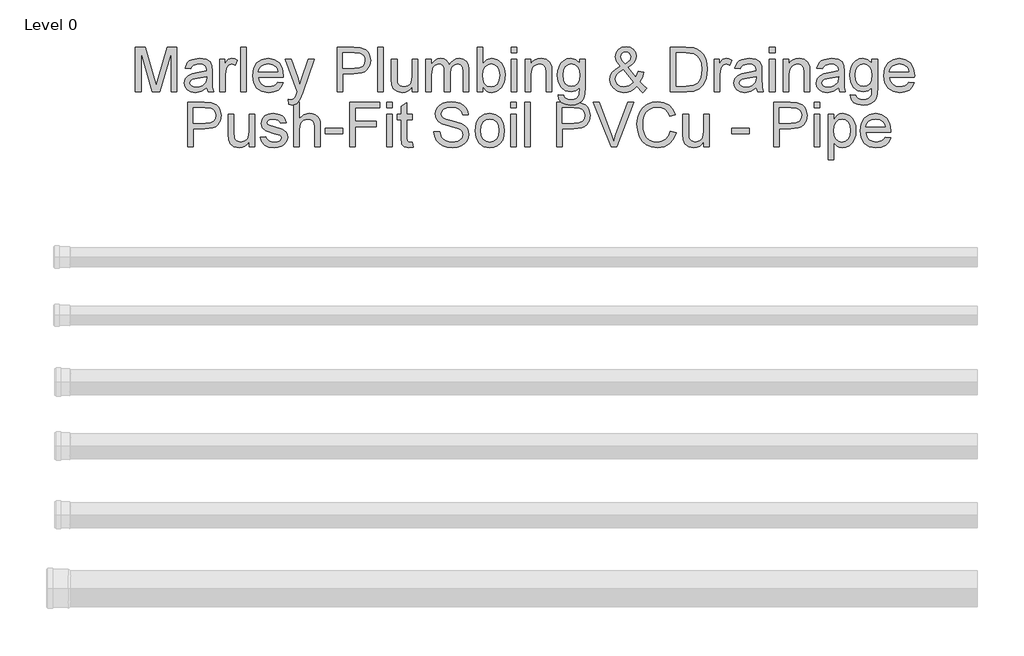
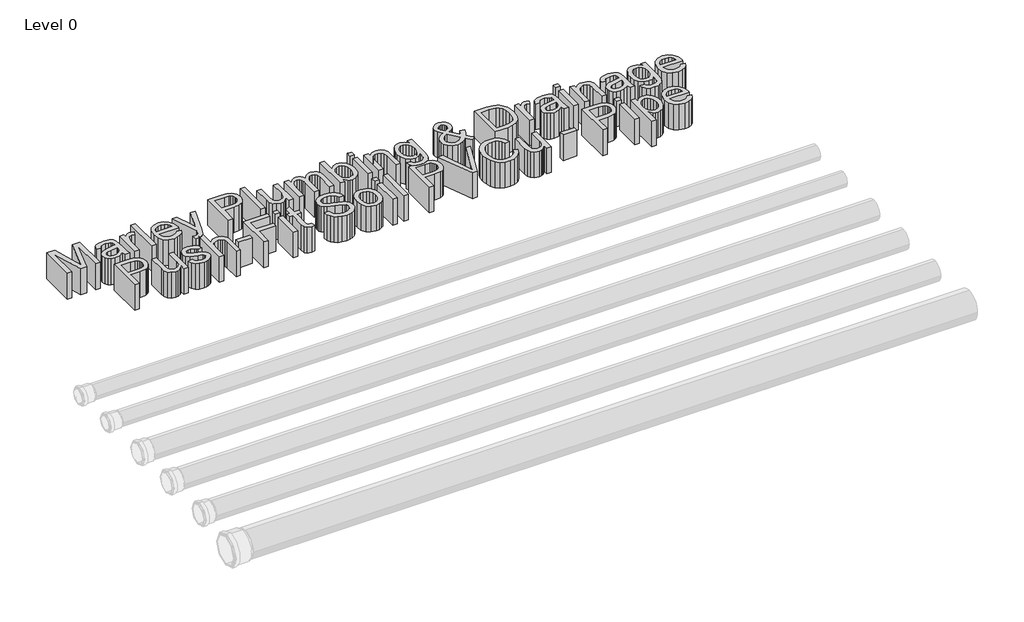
# One storey, part 2 of 2: 1 proxy.
"""IFC4 building model written with IfcOpenShell, lengths in millimetres."""

import ifcopenshell
import ifcopenshell.guid

model = None  # the IFC model being written
_history = None  # IfcOwnerHistory: only IFC2X3 demands one
_inside = {}  # id of a spatial element -> (the spatial element, [elements in it])
_under = {}  # id of a project, library or spatial element -> (it, [spatial elements below it])
_declared = {}  # id of a project -> (the project, [libraries it declares])
_typed = {}  # id of a type object -> (the type object, [elements of that type])
_made_of = {}  # id of a material, layer set ... -> (it, [elements and type objects made of it])


def new_model(schema):
    """Start an empty IFC model of exactly this schema.

    Asked for "IFC4X3", IfcOpenShell would pick the latest addendum, in which some entities
    have other attributes; the version numbers below select the first issue.
    IFC2X3 requires an IfcOwnerHistory on every rooted entity: one is made here for all.
    """
    global model, _history
    if schema == "IFC4X3":
        model = ifcopenshell.file(schema_version=(4, 3, 0, 0))
    else:
        model = ifcopenshell.file(schema=schema)
    _inside.clear()
    _under.clear()
    _declared.clear()
    _typed.clear()
    _made_of.clear()
    _history = None
    if model.schema == "IFC2X3":
        org = make("IfcOrganization", Name="unknown")
        user = make(
            "IfcPersonAndOrganization",
            ThePerson=make("IfcPerson", FamilyName="unknown"),
            TheOrganization=org,
        )
        app = make(
            "IfcApplication",
            ApplicationDeveloper=org,
            Version="unknown",
            ApplicationFullName="unknown",
            ApplicationIdentifier="unknown",
        )
        _history = make(
            "IfcOwnerHistory",
            OwningUser=user,
            OwningApplication=app,
            ChangeAction="ADDED",
            CreationDate=0,
        )
    return model


def make(cls, **values):
    """One entity of the class cls with the attributes given. An attribute that is None is left unset."""
    return model.create_entity(
        cls, **{name: value for name, value in values.items() if value is not None}
    )


def rooted(cls, **values):
    """An entity with a GlobalId (a new one), such as an element, a storey or a relation."""
    return make(cls, GlobalId=ifcopenshell.guid.new(), OwnerHistory=_history, **values)


def si_unit(unit_type, name, prefix=None):
    """IfcSIUnit, for example si_unit("LENGTHUNIT", "METRE", prefix="MILLI")."""
    return make("IfcSIUnit", UnitType=unit_type, Prefix=prefix, Name=name)


def assignment(units):
    """IfcUnitAssignment: the units of a project."""
    return None if units is None else make("IfcUnitAssignment", Units=units)


def point(xyz):
    """IfcCartesianPoint."""
    return None if xyz is None else make("IfcCartesianPoint", Coordinates=xyz)


def direction(xyz):
    """IfcDirection."""
    return None if xyz is None else make("IfcDirection", DirectionRatios=xyz)


def frame(location, z_axis=None, x_axis=None):
    """IfcAxis2Placement3D, a coordinate frame: its origin and axes. An axis left out is left unset."""
    return make(
        "IfcAxis2Placement3D",
        Location=point(location),
        Axis=direction(z_axis),
        RefDirection=direction(x_axis),
    )


def origin():
    """The frame at (0, 0, 0) with its axes left unset."""
    return frame((0.0, 0.0, 0.0))


def origin_with_axes():
    """The frame at (0, 0, 0) with the z axis (0, 0, 1) and the x axis (1, 0, 0) written out."""
    return frame((0.0, 0.0, 0.0), z_axis=(0.0, 0.0, 1.0), x_axis=(1.0, 0.0, 0.0))


def place(relative_to, where):
    """IfcLocalPlacement: puts the frame where relative to a parent placement (None: the world)."""
    return make(
        "IfcLocalPlacement", PlacementRelTo=relative_to, RelativePlacement=where
    )


def context(
    kind, dimensions, precision=None, world=None, true_north=None, identifier=None
):
    """IfcGeometricRepresentationContext, for example the 3D "Model" context."""
    return make(
        "IfcGeometricRepresentationContext",
        ContextIdentifier=identifier,
        ContextType=kind,
        CoordinateSpaceDimension=dimensions,
        Precision=precision,
        WorldCoordinateSystem=world,
        TrueNorth=true_north,
    )


def project(units=None, contexts=None):
    """IfcProject with its units and contexts."""
    return rooted(
        "IfcProject",
        Name="project",
        RepresentationContexts=contexts,
        UnitsInContext=assignment(units),
    )


def spatial(cls, under=None, at=None, **own):
    """A site, building, storey or space (cls), placed at a placement, below another one or the project."""
    s = rooted(cls, ObjectPlacement=at, **own)
    if under is not None:
        _under.setdefault(under.id(), (under, []))[1].append(s)
    return s


def polyline(points):
    """IfcPolyline through the points."""
    return make("IfcPolyline", Points=[point(p) for p in points])


def outline(outer, holes=None, kind="AREA"):
    """IfcArbitraryClosedProfileDef: a profile drawn as a closed curve; with holes, ...WithVoids."""
    if holes is None:
        return make("IfcArbitraryClosedProfileDef", ProfileType=kind, OuterCurve=outer)
    return make(
        "IfcArbitraryProfileDefWithVoids",
        ProfileType=kind,
        OuterCurve=outer,
        InnerCurves=holes,
    )


def extrude(swept, where, along, depth):
    """IfcExtrudedAreaSolid: the profile swept, set in the frame where, extruded along a direction by depth."""
    return make(
        "IfcExtrudedAreaSolid",
        SweptArea=swept,
        Position=where,
        ExtrudedDirection=direction(along),
        Depth=depth,
    )


def shape(context_of_items, identifier, shape_type, items):
    """IfcShapeRepresentation: the items that make up one representation, for example the "Body"."""
    return make(
        "IfcShapeRepresentation",
        ContextOfItems=context_of_items,
        RepresentationIdentifier=identifier,
        RepresentationType=shape_type,
        Items=items,
    )


def made_of(thing, what):
    """Note that an element or type object is made of a material, layer set ...; save() writes the relation."""
    if what is not None:
        _made_of.setdefault(what.id(), (what, []))[1].append(thing)
    return thing


def element(
    cls,
    number,
    at=None,
    inside=None,
    cuts=None,
    type_object=None,
    material=None,
    context=None,
    identifier="Body",
    shape_type=None,
    held_by="IfcProductDefinitionShape",
    body=None,
    shapes=None,
    **own,
):
    """One element of the class cls, such as IfcWall. Its Tag is "e" and its number.

    at: its placement. inside: the storey or other place that contains it. cuts: it is an
    opening in that element (IfcRelVoidsElement). A single representation is given by context,
    identifier, shape_type and body (its items); several are given by shapes. held_by: the class
    of the entity that holds the representations. save() writes the other relations.
    """
    e = rooted(cls, Tag="e%d" % number, ObjectPlacement=at, **own)
    if body is not None:
        shapes = [shape(context, identifier, shape_type, body)]
    if shapes is not None:
        e.Representation = make(held_by, Representations=shapes)
    if inside is not None:
        _inside.setdefault(inside.id(), (inside, []))[1].append(e)
    if cuts is not None:
        rooted(
            "IfcRelVoidsElement", RelatingBuildingElement=cuts, RelatedOpeningElement=e
        )
    if type_object is not None:
        _typed.setdefault(type_object.id(), (type_object, []))[1].append(e)
    return made_of(e, material)


def aggregate(whole, parts):
    """IfcRelAggregates: a whole, such as a stair, and the parts it consists of."""
    return rooted("IfcRelAggregates", RelatingObject=whole, RelatedObjects=parts)


def save(model, path):
    """Write the relations noted so far, then the file.

    IfcRelAggregates (storeys below a building ...), IfcRelContainedInSpatialStructure (elements
    in a storey), IfcRelDefinesByType, IfcRelAssociatesMaterial and IfcRelDeclares: one each for
    every whole, place, type object, material and project.
    """
    for whole, parts in _under.values():
        aggregate(whole, parts)
    for where, things in _inside.values():
        rooted(
            "IfcRelContainedInSpatialStructure",
            RelatedElements=things,
            RelatingStructure=where,
        )
    for kind, things in _typed.values():
        rooted("IfcRelDefinesByType", RelatedObjects=things, RelatingType=kind)
    for what, things in _made_of.values():
        rooted("IfcRelAssociatesMaterial", RelatedObjects=things, RelatingMaterial=what)
    for by, libraries in _declared.values():
        rooted("IfcRelDeclares", RelatingContext=by, RelatedDefinitions=libraries)
    model.write(path)


model = new_model("IFC4")

# Units and contexts
model_context = context("Model", 3, world=origin())
ifc_project = project(units=[si_unit("LENGTHUNIT", "METRE", prefix="MILLI")], contexts=[model_context])

# Site, building, storey
site = spatial("IfcSite", under=ifc_project)
building = spatial("IfcBuilding", under=site)
storey = spatial("IfcBuildingStorey", under=building, Name="Level 0", Elevation=0.0)

# Proxy
placement = place(None, origin())
element("IfcBuildingElementProxy", 1, Name="200mm Arial", ObjectType="200mm Arial", at=placement, inside=storey, context=model_context, shape_type="SweptSolid", body=[
    extrude(outline(polyline([(-27116.6978358, 9681.0651791), (-27116.6978358, 9877.988256), (-27074.3420666, 9877.988256), (-27034.0536051, 9739.1901791), (-27025.9286051, 9710.1997945), (-27017.1305281, 9741.5940252), (-26977.5151435, 9877.988256), (-26935.1593743, 9877.988256), (-26935.1593743, 9681.0651791), (-26959.7747589, 9681.0651791), (-26959.7747589, 9853.3728714), (-27009.2459128, 9681.0651791), (-27042.6112974, 9681.0651791), (-27092.0824512, 9853.3728714), (-27092.0824512, 9681.0651791), (-27116.6978358, 9681.0651791)])), origin_with_axes(), (0.0, 0.0, 1.0), 150.0),
    extrude(outline(polyline([(-26802.851682, 9699.5267175), (-26826.7218743, 9682.8440252), (-26853.0920666, 9677.988256), (-26873.6629801, 9680.9089291), (-26888.8372589, 9689.6709483), (-26898.1942301, 9702.9762368), (-26901.3132205, 9719.5267175), (-26896.601682, 9738.9978714), (-26884.2218743, 9753.1324868), (-26866.9862974, 9761.2094099), (-26845.6882205, 9764.9113329), (-26802.9959128, 9773.3728714), (-26802.851682, 9778.8536406), (-26804.5463935, 9789.8392175), (-26809.6305281, 9797.0267175), (-26821.0007205, 9802.363256), (-26836.8420666, 9804.1421022), (-26861.7459128, 9799.4065252), (-26868.7290858, 9792.8380156), (-26873.6209128, 9782.6036406), (-26898.2362974, 9785.6805637), (-26887.5872589, 9809.7190252), (-26878.5127397, 9817.8079675), (-26866.1449512, 9823.8055637), (-26833.6689897, 9828.7574868), (-26803.8372589, 9824.3824868), (-26786.9862974, 9813.3969099), (-26779.4382205, 9796.6901791), (-26778.2362974, 9775.1517175), (-26778.2362974, 9744.5267175), (-26776.9862974, 9701.7622945), (-26772.0824512, 9681.0651791), (-26796.6978358, 9681.0651791), (-26802.851682, 9699.5267175)]), holes=[polyline([(-26802.851682, 9748.7574868), (-26842.5632205, 9741.2094099), (-26863.7411051, 9737.2190252), (-26873.3324512, 9730.7286406), (-26876.6978358, 9721.2574868), (-26874.8649031, 9713.9377752), (-26869.3661051, 9707.9401791), (-26860.3216339, 9703.9377752), (-26847.851682, 9702.6036406), (-26834.6305281, 9704.0759964), (-26822.9478358, 9708.4930637), (-26806.8901435, 9722.7478714), (-26802.9959128, 9741.7863329), (-26802.851682, 9748.7574868)])]), origin_with_axes(), (0.0, 0.0, 1.0), 150.0),
    extrude(outline(polyline([(-26744.3901435, 9681.0651791), (-26744.3901435, 9825.6805637), (-26722.851682, 9825.6805637), (-26722.851682, 9804.2863329), (-26707.5632205, 9823.9978714), (-26692.1786051, 9828.7574868), (-26679.9189897, 9826.8584483), (-26667.4670666, 9821.1613329), (-26675.6882205, 9799.0940252), (-26692.9959128, 9804.1421022), (-26706.914182, 9799.2863329), (-26715.7843743, 9785.8247945), (-26719.7747589, 9757.0747945), (-26719.7747589, 9681.0651791), (-26744.3901435, 9681.0651791)])), origin_with_axes(), (0.0, 0.0, 1.0), 150.0),
    extrude(outline(polyline([(-26652.0824512, 9681.0651791), (-26652.0824512, 9877.988256), (-26627.4670666, 9877.988256), (-26627.4670666, 9681.0651791), (-26652.0824512, 9681.0651791)])), origin_with_axes(), (0.0, 0.0, 1.0), 150.0),
    extrude(outline(polyline([(-26489.2939897, 9724.1421022), (-26465.1593743, 9721.0651791), (-26473.8552878, 9702.8800829), (-26487.7314897, 9689.2863329), (-26506.4754801, 9680.8127752), (-26529.7747589, 9677.988256), (-26558.6569705, 9682.8620541), (-26580.8805281, 9697.4834483), (-26595.0512012, 9720.9029195), (-26599.7747589, 9752.1709483), (-26595.0031243, 9784.4906599), (-26580.6882205, 9808.6613329), (-26558.7651435, 9823.7334483), (-26531.1689897, 9828.7574868), (-26504.4322108, 9823.7454675), (-26483.0680281, 9808.7094099), (-26469.0596147, 9784.5868137), (-26464.3901435, 9752.3151791), (-26464.5343743, 9745.6805637), (-26575.1593743, 9745.6805637), (-26570.898557, 9727.2550829), (-26561.0007205, 9713.7094099), (-26546.7158647, 9705.3800829), (-26529.2939897, 9702.6036406), (-26505.1593743, 9707.7478714), (-26496.1930281, 9714.4185445), (-26489.2939897, 9724.1421022)]), holes=[polyline([(-26575.1593743, 9770.2959483), (-26489.0055281, 9770.2959483), (-26492.3348551, 9783.300756), (-26498.8612974, 9792.6036406), (-26513.2122589, 9801.2574868), (-26531.2651435, 9804.1421022), (-26547.8576916, 9801.8404195), (-26561.5776435, 9794.9353714), (-26571.1149031, 9784.1721502), (-26575.1593743, 9770.2959483)])]), origin_with_axes(), (0.0, 0.0, 1.0), 150.0),
    extrude(outline(polyline([(-26439.7747589, 9625.6805637), (-26442.851682, 9649.3824868), (-26430.351682, 9647.2190252), (-26418.6689897, 9649.9353714), (-26411.5055281, 9657.5074868), (-26404.7747589, 9675.6324868), (-26402.851682, 9681.5940252), (-26455.1593743, 9825.6805637), (-26429.1978358, 9825.6805637), (-26401.4574512, 9745.3921022), (-26391.7939897, 9713.2767175), (-26382.1305281, 9741.6421022), (-26353.6209128, 9825.6805637), (-26327.851682, 9825.6805637), (-26378.1882205, 9677.6036406), (-26391.2651435, 9645.488256), (-26405.5439897, 9628.1324868), (-26424.726682, 9622.6036406), (-26439.7747589, 9625.6805637)])), origin_with_axes(), (0.0, 0.0, 1.0), 150.0),
    extrude(outline(polyline([(-26227.4670666, 9681.0651791), (-26227.4670666, 9877.988256), (-26154.4862974, 9877.988256), (-26125.0632205, 9876.113256), (-26101.1449512, 9866.9065252), (-26092.4490378, 9858.7454675), (-26085.6401435, 9847.8680637), (-26079.7747589, 9821.0171022), (-26083.7350955, 9797.8079675), (-26095.6161051, 9778.4690252), (-26105.1308286, 9770.8548425), (-26117.8336531, 9765.4161406), (-26152.8036051, 9761.0651791), (-26202.851682, 9761.0651791), (-26202.851682, 9681.0651791), (-26227.4670666, 9681.0651791)]), holes=[polyline([(-26202.851682, 9785.6805637), (-26151.3612974, 9785.6805637), (-26129.5343743, 9787.9401791), (-26115.1112974, 9794.7190252), (-26107.070432, 9805.5964291), (-26104.3901435, 9820.1517175), (-26105.9706724, 9831.2094099), (-26110.7122589, 9840.5363329), (-26118.0259608, 9847.5555637), (-26127.3228358, 9851.6901791), (-26151.9382205, 9853.3728714), (-26202.851682, 9853.3728714), (-26202.851682, 9785.6805637)])]), origin_with_axes(), (0.0, 0.0, 1.0), 150.0),
    extrude(outline(polyline([(-26049.0055281, 9681.0651791), (-26049.0055281, 9877.988256), (-26024.3901435, 9877.988256), (-26024.3901435, 9681.0651791), (-26049.0055281, 9681.0651791)])), origin_with_axes(), (0.0, 0.0, 1.0), 150.0),
    extrude(outline(polyline([(-25895.1593743, 9681.0651791), (-25895.1593743, 9705.9209483), (-25904.0656243, 9693.7003954), (-25914.4382205, 9684.9714291), (-25926.2771628, 9679.7340493), (-25939.5824512, 9677.988256), (-25962.7314897, 9682.8921022), (-25978.6930281, 9695.1997945), (-25986.0247589, 9713.3247945), (-25987.4670666, 9736.2094099), (-25987.4670666, 9825.6805637), (-25962.851682, 9825.6805637), (-25962.851682, 9747.7959483), (-25961.3612974, 9722.6997945), (-25957.773557, 9714.3284002), (-25951.6257205, 9707.9642175), (-25933.2843743, 9702.6036406), (-25912.7314897, 9708.0844099), (-25904.5403839, 9714.5567656), (-25899.1497589, 9723.0122945), (-25895.1593743, 9750.4401791), (-25895.1593743, 9825.6805637), (-25870.5439897, 9825.6805637), (-25870.5439897, 9681.0651791), (-25895.1593743, 9681.0651791)])), origin_with_axes(), (0.0, 0.0, 1.0), 150.0),
    extrude(outline(polyline([(-25836.6978358, 9681.0651791), (-25836.6978358, 9825.6805637), (-25812.0824512, 9825.6805637), (-25812.0824512, 9801.8824868), (-25795.1593743, 9821.3776791), (-25783.8492781, 9826.9125349), (-25771.0728358, 9828.7574868), (-25757.382932, 9826.8764772), (-25746.4093743, 9821.2334483), (-25738.2122589, 9812.2009964), (-25732.851682, 9800.1517175), (-25723.8793262, 9812.6667416), (-25713.6449512, 9821.6060445), (-25702.148557, 9826.9696262), (-25689.3901435, 9828.7574868), (-25670.8865378, 9825.7827272), (-25657.2026435, 9816.8584483), (-25648.7471147, 9801.7442656), (-25645.9286051, 9780.1997945), (-25645.9286051, 9681.0651791), (-25670.5439897, 9681.0651791), (-25670.5439897, 9769.6228714), (-25672.8276435, 9790.175756), (-25681.0968743, 9800.2959483), (-25695.1593743, 9804.1421022), (-25708.4947108, 9801.6781599), (-25719.3661051, 9794.2863329), (-25726.5956724, 9781.4618137), (-25729.0055281, 9762.6997945), (-25729.0055281, 9681.0651791), (-25753.6209128, 9681.0651791), (-25753.6209128, 9772.363256), (-25755.0451916, 9786.2815252), (-25759.3180281, 9796.2094099), (-25766.836057, 9802.1589291), (-25777.9959128, 9804.1421022), (-25796.2170666, 9798.8536406), (-25803.4286051, 9792.3392175), (-25808.3324512, 9783.3728714), (-25812.0824512, 9753.9978714), (-25812.0824512, 9681.0651791), (-25836.6978358, 9681.0651791)])), origin_with_axes(), (0.0, 0.0, 1.0), 150.0),
    extrude(outline(polyline([(-25584.3901435, 9681.0651791), (-25609.0055281, 9681.0651791), (-25609.0055281, 9877.988256), (-25584.3901435, 9877.988256), (-25584.3901435, 9804.9594099), (-25567.1545666, 9822.8079675), (-25545.7362974, 9828.7574868), (-25521.0728358, 9823.3969099), (-25501.9382205, 9808.3247945), (-25490.1834128, 9784.8872945), (-25485.9286051, 9755.5363329), (-25490.3336531, 9722.675756), (-25503.5487974, 9698.2286406), (-25522.9418262, 9683.0483522), (-25545.8805281, 9677.988256), (-25557.4820906, 9679.6198666), (-25567.7675474, 9684.5146983), (-25584.3901435, 9704.0940252), (-25584.3901435, 9681.0651791)]), holes=[polyline([(-25584.3901435, 9754.3824868), (-25582.7074512, 9733.8536406), (-25577.6593743, 9719.9594099), (-25564.7627397, 9706.9425829), (-25547.9959128, 9702.6036406), (-25533.789182, 9705.800756), (-25521.6497589, 9715.3921022), (-25513.320432, 9731.3175829), (-25510.5439897, 9753.5171022), (-25513.2062493, 9776.0411406), (-25521.1930281, 9791.7863329), (-25532.9538455, 9801.0531599), (-25546.9382205, 9804.1421022), (-25561.1449512, 9800.9449868), (-25573.2843743, 9791.3536406), (-25581.6137012, 9775.7166214), (-25584.3901435, 9754.3824868)])]), origin_with_axes(), (0.0, 0.0, 1.0), 150.0),
    extrude(outline(polyline([(-25458.2362974, 9681.0651791), (-25458.2362974, 9825.6805637), (-25433.6209128, 9825.6805637), (-25433.6209128, 9681.0651791), (-25458.2362974, 9681.0651791)])), origin_with_axes(), (0.0, 0.0, 1.0), 150.0),
    extrude(outline(polyline([(-25458.2362974, 9853.3728714), (-25458.2362974, 9877.988256), (-25433.6209128, 9877.988256), (-25433.6209128, 9853.3728714), (-25458.2362974, 9853.3728714)])), origin_with_axes(), (0.0, 0.0, 1.0), 150.0),
    extrude(outline(polyline([(-25396.6978358, 9681.0651791), (-25396.6978358, 9825.6805637), (-25372.0824512, 9825.6805637), (-25372.0824512, 9805.488256), (-25363.5307685, 9815.6685445), (-25353.2603358, 9822.9401791), (-25341.2711531, 9827.3031599), (-25327.5632205, 9828.7574868), (-25304.3180281, 9824.0699868), (-25288.4526435, 9811.7622945), (-25281.0728358, 9793.6613329), (-25279.7747589, 9769.863256), (-25279.7747589, 9681.0651791), (-25304.3901435, 9681.0651791), (-25304.3901435, 9766.5459483), (-25307.226682, 9788.3247945), (-25317.2507205, 9799.8392175), (-25334.1497589, 9804.1421022), (-25348.5668262, 9801.7262368), (-25360.8564897, 9794.4786406), (-25369.2759608, 9780.4762368), (-25372.0824512, 9757.7959483), (-25372.0824512, 9681.0651791), (-25396.6978358, 9681.0651791)])), origin_with_axes(), (0.0, 0.0, 1.0), 150.0),
    extrude(outline(polyline([(-25252.0824512, 9668.7574868), (-25227.4670666, 9665.6805637), (-25224.7507205, 9657.988256), (-25219.4862974, 9652.6997945), (-25209.1377397, 9648.5892175), (-25195.5920666, 9647.2190252), (-25181.1449512, 9648.769506), (-25170.3997589, 9653.4209483), (-25162.9478358, 9660.8728714), (-25158.3805281, 9670.8247945), (-25156.6978358, 9699.5267175), (-25174.0295666, 9685.6805637), (-25195.1593743, 9681.0651791), (-25220.5379801, 9686.4377752), (-25239.4622589, 9702.5555637), (-25251.2350955, 9726.1853714), (-25255.1593743, 9754.0940252), (-25253.398557, 9773.9678233), (-25248.1161051, 9792.2430637), (-25239.4983166, 9807.7298425), (-25227.7314897, 9819.238256), (-25213.2182685, 9826.3776791), (-25196.3612974, 9828.7574868), (-25174.4021628, 9823.3728714), (-25156.6978358, 9807.2190252), (-25156.6978358, 9825.6805637), (-25132.0824512, 9825.6805637), (-25132.0824512, 9700.8247945), (-25133.7651435, 9671.9966695), (-25138.8132205, 9653.0122945), (-25147.5091339, 9640.4221502), (-25160.1353358, 9630.7767175), (-25176.4153839, 9624.6469099), (-25196.0728358, 9622.6036406), (-25218.9754801, 9625.4822464), (-25237.0103358, 9634.1180637), (-25248.5788455, 9648.535131), (-25252.0824512, 9668.7574868)]), holes=[polyline([(-25230.5439897, 9755.7767175), (-25227.9177878, 9733.1985925), (-25220.039182, 9717.675756), (-25208.1942301, 9708.6793618), (-25193.6689897, 9705.6805637), (-25179.2519224, 9708.6613329), (-25167.3468743, 9717.6036406), (-25159.3600955, 9732.9281599), (-25156.6978358, 9755.0555637), (-25159.4382205, 9776.3957079), (-25167.6593743, 9791.7622945), (-25179.7387012, 9801.0471502), (-25194.0536051, 9804.1421022), (-25208.1100955, 9801.0952272), (-25219.8949512, 9791.9546022), (-25227.8817301, 9776.816381), (-25230.5439897, 9755.7767175)])]), origin_with_axes(), (0.0, 0.0, 1.0), 150.0),
    extrude(outline(polyline([(-24905.3036051, 9705.3921022), (-24917.8156243, 9693.4029195), (-24931.4093743, 9684.8392175), (-24946.1088935, 9679.7009964), (-24961.9382205, 9677.988256), (-24989.101682, 9683.0603714), (-25010.0151435, 9698.2767175), (-25020.7963935, 9715.7887368), (-25024.3901435, 9735.2478714), (-25021.4995185, 9752.4954675), (-25012.8276435, 9767.988256), (-24998.4105762, 9781.7142175), (-24978.2843743, 9793.6613329), (-24995.4718743, 9818.5651791), (-24999.7747589, 9837.0267175), (-24996.3853358, 9853.6493137), (-24986.2170666, 9867.9401791), (-24970.9165858, 9877.7839291), (-24952.1305281, 9881.0651791), (-24934.257932, 9877.9281599), (-24919.9670666, 9868.5171022), (-24910.5920666, 9854.707006), (-24907.4670666, 9838.3728714), (-24909.7807685, 9824.6589291), (-24916.7218743, 9811.9786406), (-24928.2903839, 9800.332006), (-24944.4862974, 9789.7190252), (-24908.8612974, 9745.3440252), (-24898.2362974, 9772.6036406), (-24873.6209128, 9767.2671022), (-24881.1930281, 9744.4666214), (-24891.0247589, 9726.738256), (-24877.0343743, 9710.4161406), (-24861.3132205, 9696.9305637), (-24879.7747589, 9677.988256), (-24905.3036051, 9705.3921022)]), holes=[polyline([(-24956.9382205, 9805.2478714), (-24936.6978358, 9820.5122945), (-24932.0824512, 9835.0074868), (-24933.6028839, 9843.6072464), (-24938.164182, 9850.4642175), (-24945.0091339, 9854.9534002), (-24953.3805281, 9856.4497945), (-24961.9322108, 9854.9654195), (-24968.9334128, 9850.5122945), (-24973.6028839, 9843.9197464), (-24975.1593743, 9836.0171022), (-24973.0439897, 9827.0026791), (-24966.6497589, 9816.9786406), (-24956.9382205, 9805.2478714)]), polyline([(-24921.7939897, 9723.1324868), (-24965.7362974, 9777.988256), (-24982.5211531, 9767.2791214), (-24992.7795666, 9757.363256), (-24998.0259608, 9747.8921022), (-24999.7747589, 9738.5171022), (-24997.382932, 9726.9065252), (-24990.2074512, 9714.863256), (-24978.6449512, 9705.6685445), (-24963.0920666, 9702.6036406), (-24940.4718743, 9708.3247945), (-24921.7939897, 9723.1324868)])]), origin_with_axes(), (0.0, 0.0, 1.0), 150.0),
    extrude(outline(polyline([(-24756.6978358, 9681.0651791), (-24756.6978358, 9877.988256), (-24688.7651435, 9877.988256), (-24653.6209128, 9875.1517175), (-24637.9237974, 9869.6829675), (-24624.6786051, 9861.0651791), (-24611.0608166, 9846.0651791), (-24601.3612974, 9827.4113329), (-24595.5560089, 9805.4642175), (-24593.6209128, 9780.5844099), (-24598.8612974, 9740.8488329), (-24612.3228358, 9712.1709483), (-24630.3036051, 9694.3103714), (-24653.8372589, 9684.4305637), (-24685.4959128, 9681.0651791), (-24756.6978358, 9681.0651791)]), holes=[polyline([(-24732.0824512, 9705.6805637), (-24688.5247589, 9705.6805637), (-24656.8420666, 9709.238256), (-24638.5728358, 9719.2863329), (-24630.0211531, 9729.941381), (-24623.5968743, 9743.7334483), (-24618.2362974, 9780.9690252), (-24620.8624993, 9807.7959483), (-24628.7411051, 9827.6036406), (-24640.3817301, 9841.2094099), (-24654.2939897, 9849.4305637), (-24689.1978358, 9853.3728714), (-24732.0824512, 9853.3728714), (-24732.0824512, 9705.6805637)])]), origin_with_axes(), (0.0, 0.0, 1.0), 150.0),
    extrude(outline(polyline([(-24562.851682, 9681.0651791), (-24562.851682, 9825.6805637), (-24541.3132205, 9825.6805637), (-24541.3132205, 9804.2863329), (-24526.0247589, 9823.9978714), (-24510.6401435, 9828.7574868), (-24498.3805281, 9826.8584483), (-24485.9286051, 9821.1613329), (-24494.1497589, 9799.0940252), (-24511.4574512, 9804.1421022), (-24525.3757205, 9799.2863329), (-24534.2459128, 9785.8247945), (-24538.2362974, 9757.0747945), (-24538.2362974, 9681.0651791), (-24562.851682, 9681.0651791)])), origin_with_axes(), (0.0, 0.0, 1.0), 150.0),
    extrude(outline(polyline([(-24378.2362974, 9699.5267175), (-24402.1064897, 9682.8440252), (-24428.476682, 9677.988256), (-24449.0475955, 9680.9089291), (-24464.2218743, 9689.6709483), (-24473.5788455, 9702.9762368), (-24476.6978358, 9719.5267175), (-24471.9862974, 9738.9978714), (-24459.6064897, 9753.1324868), (-24442.3709128, 9761.2094099), (-24421.0728358, 9764.9113329), (-24378.3805281, 9773.3728714), (-24378.2362974, 9778.8536406), (-24379.9310089, 9789.8392175), (-24385.0151435, 9797.0267175), (-24396.3853358, 9802.363256), (-24412.226682, 9804.1421022), (-24437.1305281, 9799.4065252), (-24444.1137012, 9792.8380156), (-24449.0055281, 9782.6036406), (-24473.6209128, 9785.6805637), (-24462.9718743, 9809.7190252), (-24453.8973551, 9817.8079675), (-24441.5295666, 9823.8055637), (-24409.0536051, 9828.7574868), (-24379.2218743, 9824.3824868), (-24362.3709128, 9813.3969099), (-24354.8228358, 9796.6901791), (-24353.6209128, 9775.1517175), (-24353.6209128, 9744.5267175), (-24352.3709128, 9701.7622945), (-24347.4670666, 9681.0651791), (-24372.0824512, 9681.0651791), (-24378.2362974, 9699.5267175)]), holes=[polyline([(-24378.2362974, 9748.7574868), (-24417.9478358, 9741.2094099), (-24439.1257205, 9737.2190252), (-24448.7170666, 9730.7286406), (-24452.0824512, 9721.2574868), (-24450.2495185, 9713.9377752), (-24444.7507205, 9707.9401791), (-24435.7062493, 9703.9377752), (-24423.2362974, 9702.6036406), (-24410.0151435, 9704.0759964), (-24398.3324512, 9708.4930637), (-24382.2747589, 9722.7478714), (-24378.3805281, 9741.7863329), (-24378.2362974, 9748.7574868)])]), origin_with_axes(), (0.0, 0.0, 1.0), 150.0),
    extrude(outline(polyline([(-24319.7747589, 9681.0651791), (-24319.7747589, 9825.6805637), (-24295.1593743, 9825.6805637), (-24295.1593743, 9681.0651791), (-24319.7747589, 9681.0651791)])), origin_with_axes(), (0.0, 0.0, 1.0), 150.0),
    extrude(outline(polyline([(-24319.7747589, 9853.3728714), (-24319.7747589, 9877.988256), (-24295.1593743, 9877.988256), (-24295.1593743, 9853.3728714), (-24319.7747589, 9853.3728714)])), origin_with_axes(), (0.0, 0.0, 1.0), 150.0),
    extrude(outline(polyline([(-24258.2362974, 9681.0651791), (-24258.2362974, 9825.6805637), (-24233.6209128, 9825.6805637), (-24233.6209128, 9805.488256), (-24225.0692301, 9815.6685445), (-24214.7987974, 9822.9401791), (-24202.8096147, 9827.3031599), (-24189.101682, 9828.7574868), (-24165.8564897, 9824.0699868), (-24149.9911051, 9811.7622945), (-24142.6112974, 9793.6613329), (-24141.3132205, 9769.863256), (-24141.3132205, 9681.0651791), (-24165.9286051, 9681.0651791), (-24165.9286051, 9766.5459483), (-24168.7651435, 9788.3247945), (-24178.789182, 9799.8392175), (-24195.6882205, 9804.1421022), (-24210.1052878, 9801.7262368), (-24222.3949512, 9794.4786406), (-24230.8144224, 9780.4762368), (-24233.6209128, 9757.7959483), (-24233.6209128, 9681.0651791), (-24258.2362974, 9681.0651791)])), origin_with_axes(), (0.0, 0.0, 1.0), 150.0),
    extrude(outline(polyline([(-24015.1593743, 9699.5267175), (-24039.0295666, 9682.8440252), (-24065.3997589, 9677.988256), (-24085.9706724, 9680.9089291), (-24101.1449512, 9689.6709483), (-24110.5019224, 9702.9762368), (-24113.6209128, 9719.5267175), (-24108.9093743, 9738.9978714), (-24096.5295666, 9753.1324868), (-24079.2939897, 9761.2094099), (-24057.9959128, 9764.9113329), (-24015.3036051, 9773.3728714), (-24015.1593743, 9778.8536406), (-24016.8540858, 9789.8392175), (-24021.9382205, 9797.0267175), (-24033.3084128, 9802.363256), (-24049.1497589, 9804.1421022), (-24074.0536051, 9799.4065252), (-24081.0367781, 9792.8380156), (-24085.9286051, 9782.6036406), (-24110.5439897, 9785.6805637), (-24099.8949512, 9809.7190252), (-24090.820432, 9817.8079675), (-24078.4526435, 9823.8055637), (-24045.976682, 9828.7574868), (-24016.1449512, 9824.3824868), (-23999.2939897, 9813.3969099), (-23991.7459128, 9796.6901791), (-23990.5439897, 9775.1517175), (-23990.5439897, 9744.5267175), (-23989.2939897, 9701.7622945), (-23984.3901435, 9681.0651791), (-24009.0055281, 9681.0651791), (-24015.1593743, 9699.5267175)]), holes=[polyline([(-24015.1593743, 9748.7574868), (-24054.8709128, 9741.2094099), (-24076.0487974, 9737.2190252), (-24085.6401435, 9730.7286406), (-24089.0055281, 9721.2574868), (-24087.1725955, 9713.9377752), (-24081.6737974, 9707.9401791), (-24072.6293262, 9703.9377752), (-24060.1593743, 9702.6036406), (-24046.9382205, 9704.0759964), (-24035.2555281, 9708.4930637), (-24019.1978358, 9722.7478714), (-24015.3036051, 9741.7863329), (-24015.1593743, 9748.7574868)])]), origin_with_axes(), (0.0, 0.0, 1.0), 150.0),
    extrude(outline(polyline([(-23962.851682, 9668.7574868), (-23938.2362974, 9665.6805637), (-23935.5199512, 9657.988256), (-23930.2555281, 9652.6997945), (-23919.9069705, 9648.5892175), (-23906.3612974, 9647.2190252), (-23891.914182, 9648.769506), (-23881.1689897, 9653.4209483), (-23873.7170666, 9660.8728714), (-23869.1497589, 9670.8247945), (-23867.4670666, 9699.5267175), (-23884.7987974, 9685.6805637), (-23905.9286051, 9681.0651791), (-23931.3072108, 9686.4377752), (-23950.2314897, 9702.5555637), (-23962.0043262, 9726.1853714), (-23965.9286051, 9754.0940252), (-23964.1677878, 9773.9678233), (-23958.8853358, 9792.2430637), (-23950.2675474, 9807.7298425), (-23938.5007205, 9819.238256), (-23923.9874993, 9826.3776791), (-23907.1305281, 9828.7574868), (-23885.1713935, 9823.3728714), (-23867.4670666, 9807.2190252), (-23867.4670666, 9825.6805637), (-23842.851682, 9825.6805637), (-23842.851682, 9700.8247945), (-23844.5343743, 9671.9966695), (-23849.5824512, 9653.0122945), (-23858.2783647, 9640.4221502), (-23870.9045666, 9630.7767175), (-23887.1846147, 9624.6469099), (-23906.8420666, 9622.6036406), (-23929.7447108, 9625.4822464), (-23947.7795666, 9634.1180637), (-23959.3480762, 9648.535131), (-23962.851682, 9668.7574868)]), holes=[polyline([(-23941.3132205, 9755.7767175), (-23938.6870185, 9733.1985925), (-23930.8084128, 9717.675756), (-23918.9634608, 9708.6793618), (-23904.4382205, 9705.6805637), (-23890.0211531, 9708.6613329), (-23878.1161051, 9717.6036406), (-23870.1293262, 9732.9281599), (-23867.4670666, 9755.0555637), (-23870.2074512, 9776.3957079), (-23878.4286051, 9791.7622945), (-23890.507932, 9801.0471502), (-23904.8228358, 9804.1421022), (-23918.8793262, 9801.0952272), (-23930.664182, 9791.9546022), (-23938.6509608, 9776.816381), (-23941.3132205, 9755.7767175)])]), origin_with_axes(), (0.0, 0.0, 1.0), 150.0),
    extrude(outline(polyline([(-23704.6786051, 9724.1421022), (-23680.5439897, 9721.0651791), (-23689.2399031, 9702.8800829), (-23703.1161051, 9689.2863329), (-23721.8600955, 9680.8127752), (-23745.1593743, 9677.988256), (-23774.0415858, 9682.8620541), (-23796.2651435, 9697.4834483), (-23810.4358166, 9720.9029195), (-23815.1593743, 9752.1709483), (-23810.3877397, 9784.4906599), (-23796.0728358, 9808.6613329), (-23774.1497589, 9823.7334483), (-23746.5536051, 9828.7574868), (-23719.8168262, 9823.7454675), (-23698.4526435, 9808.7094099), (-23684.4442301, 9784.5868137), (-23679.7747589, 9752.3151791), (-23679.9189897, 9745.6805637), (-23790.5439897, 9745.6805637), (-23786.2831724, 9727.2550829), (-23776.3853358, 9713.7094099), (-23762.1004801, 9705.3800829), (-23744.6786051, 9702.6036406), (-23720.5439897, 9707.7478714), (-23711.5776435, 9714.4185445), (-23704.6786051, 9724.1421022)]), holes=[polyline([(-23790.5439897, 9770.2959483), (-23704.3901435, 9770.2959483), (-23707.7194705, 9783.300756), (-23714.2459128, 9792.6036406), (-23728.5968743, 9801.2574868), (-23746.6497589, 9804.1421022), (-23763.242307, 9801.8404195), (-23776.9622589, 9794.9353714), (-23786.4995185, 9784.1721502), (-23790.5439897, 9770.2959483)])]), origin_with_axes(), (0.0, 0.0, 1.0), 150.0),
    extrude(outline(polyline([(-26885.9286051, 9437.988256), (-26885.9286051, 9634.9113329), (-26812.9478358, 9634.9113329), (-26783.5247589, 9633.0363329), (-26759.6064897, 9623.8296022), (-26750.9105762, 9615.6685445), (-26744.101682, 9604.7911406), (-26738.2362974, 9577.9401791), (-26742.1966339, 9554.7310445), (-26754.0776435, 9535.3921022), (-26763.5923671, 9527.7779195), (-26776.2951916, 9522.3392175), (-26811.2651435, 9517.988256), (-26861.3132205, 9517.988256), (-26861.3132205, 9437.988256), (-26885.9286051, 9437.988256)]), holes=[polyline([(-26861.3132205, 9542.6036406), (-26809.8228358, 9542.6036406), (-26787.9959128, 9544.863256), (-26773.5728358, 9551.6421022), (-26765.5319705, 9562.519506), (-26762.851682, 9577.0747945), (-26764.4322108, 9588.1324868), (-26769.1737974, 9597.4594099), (-26776.4874993, 9604.4786406), (-26785.7843743, 9608.613256), (-26810.3997589, 9610.2959483), (-26861.3132205, 9610.2959483), (-26861.3132205, 9542.6036406)])]), origin_with_axes(), (0.0, 0.0, 1.0), 150.0),
    extrude(outline(polyline([(-26615.1593743, 9437.988256), (-26615.1593743, 9462.8440252), (-26624.0656243, 9450.6234724), (-26634.4382205, 9441.894506), (-26646.2771628, 9436.6571262), (-26659.5824512, 9434.9113329), (-26682.7314897, 9439.8151791), (-26698.6930281, 9452.1228714), (-26706.0247589, 9470.2478714), (-26707.4670666, 9493.1324868), (-26707.4670666, 9582.6036406), (-26682.851682, 9582.6036406), (-26682.851682, 9504.7190252), (-26681.3612974, 9479.6228714), (-26677.773557, 9471.2514772), (-26671.6257205, 9464.8872945), (-26653.2843743, 9459.5267175), (-26632.7314897, 9465.0074868), (-26624.5403839, 9471.4798425), (-26619.1497589, 9479.9353714), (-26615.1593743, 9507.363256), (-26615.1593743, 9582.6036406), (-26590.5439897, 9582.6036406), (-26590.5439897, 9437.988256), (-26615.1593743, 9437.988256)])), origin_with_axes(), (0.0, 0.0, 1.0), 150.0),
    extrude(outline(polyline([(-26565.9286051, 9481.0651791), (-26541.3132205, 9484.1421022), (-26537.4310089, 9473.613256), (-26529.9189897, 9465.8728714), (-26518.7290858, 9461.113256), (-26503.8132205, 9459.5267175), (-26489.0776435, 9460.9810445), (-26478.7170666, 9465.3440252), (-26472.5872589, 9471.6661406), (-26470.5439897, 9478.9978714), (-26472.5992781, 9485.2719099), (-26478.7651435, 9490.0555637), (-26504.101682, 9497.0747945), (-26541.1689897, 9509.1180637), (-26557.3468743, 9523.1805637), (-26562.851682, 9543.0363329), (-26558.4286051, 9561.3776791), (-26546.3612974, 9575.3921022), (-26530.7122589, 9582.675756), (-26509.5343743, 9585.6805637), (-26479.5824512, 9580.8488329), (-26468.3805281, 9575.1637368), (-26460.5439897, 9567.7719099), (-26452.0824512, 9545.6805637), (-26476.6978358, 9542.6036406), (-26479.804807, 9550.3500349), (-26485.9526435, 9556.1853714), (-26507.6112974, 9561.0651791), (-26521.7459128, 9559.8993137), (-26531.1689897, 9556.4017175), (-26536.4694705, 9551.3536406), (-26538.2362974, 9545.5363329), (-26535.3036051, 9538.3728714), (-26526.1209128, 9532.9401791), (-26504.9189897, 9527.6997945), (-26468.789182, 9516.113256), (-26452.0103358, 9502.988256), (-26447.4490378, 9493.3368137), (-26445.9286051, 9481.5940252), (-26447.7134608, 9469.4546022), (-26453.0680281, 9458.0363329), (-26461.7879801, 9448.2346502), (-26473.6689897, 9440.9449868), (-26488.0199512, 9436.4197464), (-26504.1497589, 9434.9113329), (-26528.9694705, 9437.8199868), (-26547.0824512, 9446.5459483), (-26559.1737974, 9460.9930637), (-26565.9286051, 9481.0651791)])), origin_with_axes(), (0.0, 0.0, 1.0), 150.0),
    extrude(outline(polyline([(-26418.2362974, 9437.988256), (-26418.2362974, 9634.9113329), (-26393.6209128, 9634.9113329), (-26393.6209128, 9562.5074868), (-26374.4262012, 9579.8872945), (-26350.7843743, 9585.6805637), (-26335.9165858, 9584.1000349), (-26323.1401435, 9579.3584483), (-26313.0800474, 9571.8284002), (-26306.3612974, 9561.8824868), (-26302.5752397, 9548.2166214), (-26301.3132205, 9529.5267175), (-26301.3132205, 9437.988256), (-26325.9286051, 9437.988256), (-26325.9286051, 9526.9786406), (-26327.8877397, 9542.3872945), (-26333.7651435, 9552.9401791), (-26343.2362974, 9559.0339291), (-26355.976682, 9561.0651791), (-26376.1449512, 9555.5844099), (-26384.2338935, 9549.1300829), (-26389.6064897, 9540.7286406), (-26393.6209128, 9514.8151791), (-26393.6209128, 9437.988256), (-26418.2362974, 9437.988256)])), origin_with_axes(), (0.0, 0.0, 1.0), 150.0),
    extrude(outline(polyline([(-26279.7747589, 9496.4497945), (-26279.7747589, 9521.0651791), (-26202.851682, 9521.0651791), (-26202.851682, 9496.4497945), (-26279.7747589, 9496.4497945)])), origin_with_axes(), (0.0, 0.0, 1.0), 150.0),
    extrude(outline(polyline([(-26172.0824512, 9437.988256), (-26172.0824512, 9634.9113329), (-26039.7747589, 9634.9113329), (-26039.7747589, 9610.2959483), (-26147.4670666, 9610.2959483), (-26147.4670666, 9551.8344099), (-26055.1593743, 9551.8344099), (-26055.1593743, 9527.2190252), (-26147.4670666, 9527.2190252), (-26147.4670666, 9437.988256), (-26172.0824512, 9437.988256)])), origin_with_axes(), (0.0, 0.0, 1.0), 150.0),
    extrude(outline(polyline([(-26009.0055281, 9437.988256), (-26009.0055281, 9582.6036406), (-25984.3901435, 9582.6036406), (-25984.3901435, 9437.988256), (-26009.0055281, 9437.988256)])), origin_with_axes(), (0.0, 0.0, 1.0), 150.0),
    extrude(outline(polyline([(-26009.0055281, 9610.2959483), (-26009.0055281, 9634.9113329), (-25984.3901435, 9634.9113329), (-25984.3901435, 9610.2959483), (-26009.0055281, 9610.2959483)])), origin_with_axes(), (0.0, 0.0, 1.0), 150.0),
    extrude(outline(polyline([(-25895.1593743, 9458.5171022), (-25892.0824512, 9437.2671022), (-25910.4959128, 9434.9113329), (-25931.1209128, 9438.9978714), (-25941.4093743, 9449.7190252), (-25944.3901435, 9477.6517175), (-25944.3901435, 9557.988256), (-25962.851682, 9557.988256), (-25962.851682, 9582.6036406), (-25944.3901435, 9582.6036406), (-25944.3901435, 9617.7478714), (-25919.7747589, 9632.2190252), (-25919.7747589, 9582.6036406), (-25895.1593743, 9582.6036406), (-25895.1593743, 9557.988256), (-25919.7747589, 9557.988256), (-25919.7747589, 9478.3728714), (-25918.476682, 9465.6805637), (-25914.2699512, 9461.1853714), (-25905.8805281, 9459.5267175), (-25895.1593743, 9458.5171022)])), origin_with_axes(), (0.0, 0.0, 1.0), 150.0),
    extrude(outline(polyline([(-25799.7747589, 9505.6805637), (-25775.1593743, 9505.6805637), (-25767.226682, 9481.0411406), (-25759.257932, 9472.3271983), (-25747.851682, 9465.4642175), (-25733.9093743, 9461.0110925), (-25718.3324512, 9459.5267175), (-25692.6112974, 9464.0219099), (-25676.0007205, 9476.3776791), (-25670.5439897, 9492.8921022), (-25674.6305281, 9508.2526791), (-25680.8564897, 9514.3284002), (-25691.3612974, 9519.4305637), (-25727.2026435, 9528.8296022), (-25765.7843743, 9540.9690252), (-25778.0379801, 9549.2502752), (-25786.7218743, 9559.2863329), (-25791.8961531, 9570.8608522), (-25793.6209128, 9583.7574868), (-25791.4874993, 9598.1745541), (-25785.0872589, 9611.6180637), (-25774.5884608, 9623.0122945), (-25760.1593743, 9631.2815252), (-25742.8396628, 9636.3115733), (-25723.6689897, 9637.988256), (-25702.8997589, 9636.2334483), (-25684.726682, 9630.9690252), (-25669.7987974, 9622.3031599), (-25658.7651435, 9610.3440252), (-25651.7819705, 9595.8368137), (-25649.0055281, 9579.5267175), (-25673.6209128, 9579.5267175), (-25678.1401435, 9594.2142175), (-25687.5632205, 9604.8151791), (-25702.2867781, 9611.2334483), (-25722.7074512, 9613.3728714), (-25743.6088935, 9611.2574868), (-25757.9478358, 9604.9113329), (-25766.2411051, 9595.5723906), (-25769.0055281, 9584.4786406), (-25767.0463935, 9575.019506), (-25761.1689897, 9567.4113329), (-25747.2747589, 9560.6084483), (-25720.976682, 9553.6613329), (-25677.4189897, 9541.3055637), (-25663.3865378, 9532.3752752), (-25653.5968743, 9521.3536406), (-25647.8456724, 9508.3608522), (-25645.9286051, 9493.5171022), (-25648.1341339, 9478.3428233), (-25654.7507205, 9464.0699868), (-25665.507932, 9451.7863329), (-25680.1353358, 9442.5796022), (-25697.7254801, 9436.8284002), (-25717.3709128, 9434.9113329), (-25741.4874993, 9436.9786406), (-25761.3372589, 9443.1805637), (-25777.148557, 9453.5411406), (-25789.1497589, 9468.0844099), (-25796.8540858, 9485.800756), (-25799.7747589, 9505.6805637)])), origin_with_axes(), (0.0, 0.0, 1.0), 150.0),
    extrude(outline(polyline([(-25618.2362974, 9510.2959483), (-25612.9117781, 9545.1637368), (-25606.2561291, 9558.7124147), (-25596.9382205, 9569.6709483), (-25577.2026435, 9581.6781599), (-25553.5728358, 9585.6805637), (-25527.7134608, 9580.8067656), (-25507.0584128, 9566.1853714), (-25493.5187493, 9542.9702272), (-25489.0055281, 9512.3151791), (-25491.0007205, 9487.4473906), (-25496.9862974, 9468.5171022), (-25506.7879801, 9454.3404195), (-25520.2314897, 9443.7334483), (-25536.1990378, 9437.1168618), (-25553.5728358, 9434.9113329), (-25579.7447108, 9439.7671022), (-25600.3757205, 9454.3344099), (-25613.7711531, 9478.0363329), (-25618.2362974, 9510.2959483)]), holes=[polyline([(-25593.6209128, 9510.3440252), (-25590.7723551, 9488.066381), (-25582.226682, 9472.1949868), (-25569.3661051, 9462.6937849), (-25553.5728358, 9459.5267175), (-25537.851682, 9462.7118137), (-25525.0151435, 9472.2671022), (-25516.4694705, 9488.3488329), (-25513.6209128, 9511.113256), (-25516.4874993, 9532.7418618), (-25525.0872589, 9548.3969099), (-25537.9418262, 9557.8981118), (-25553.5728358, 9561.0651791), (-25569.3661051, 9557.910131), (-25582.226682, 9548.4449868), (-25590.7723551, 9532.6096502), (-25593.6209128, 9510.3440252)])]), origin_with_axes(), (0.0, 0.0, 1.0), 150.0),
    extrude(outline(polyline([(-25461.3132205, 9610.2959483), (-25461.3132205, 9634.9113329), (-25436.6978358, 9634.9113329), (-25436.6978358, 9610.2959483), (-25461.3132205, 9610.2959483)])), origin_with_axes(), (0.0, 0.0, 1.0), 150.0),
    extrude(outline(polyline([(-25461.3132205, 9437.988256), (-25461.3132205, 9582.6036406), (-25436.6978358, 9582.6036406), (-25436.6978358, 9437.988256), (-25461.3132205, 9437.988256)])), origin_with_axes(), (0.0, 0.0, 1.0), 150.0),
    extrude(outline(polyline([(-25399.7747589, 9437.988256), (-25399.7747589, 9634.9113329), (-25375.1593743, 9634.9113329), (-25375.1593743, 9437.988256), (-25399.7747589, 9437.988256)])), origin_with_axes(), (0.0, 0.0, 1.0), 150.0),
    extrude(outline(polyline([(-25258.2362974, 9437.988256), (-25258.2362974, 9634.9113329), (-25185.2555281, 9634.9113329), (-25155.8324512, 9633.0363329), (-25131.914182, 9623.8296022), (-25123.2182685, 9615.6685445), (-25116.4093743, 9604.7911406), (-25110.5439897, 9577.9401791), (-25114.5043262, 9554.7310445), (-25126.3853358, 9535.3921022), (-25135.9000594, 9527.7779195), (-25148.6028839, 9522.3392175), (-25183.5728358, 9517.988256), (-25233.6209128, 9517.988256), (-25233.6209128, 9437.988256), (-25258.2362974, 9437.988256)]), holes=[polyline([(-25233.6209128, 9542.6036406), (-25182.1305281, 9542.6036406), (-25160.3036051, 9544.863256), (-25145.8805281, 9551.6421022), (-25137.8396628, 9562.519506), (-25135.1593743, 9577.0747945), (-25136.7399031, 9588.1324868), (-25141.4814897, 9597.4594099), (-25148.7951916, 9604.4786406), (-25158.0920666, 9608.613256), (-25182.7074512, 9610.2959483), (-25233.6209128, 9610.2959483), (-25233.6209128, 9542.6036406)])]), origin_with_axes(), (0.0, 0.0, 1.0), 150.0),
    extrude(outline(polyline([(-25018.5247589, 9437.988256), (-25096.8901435, 9634.9113329), (-25070.5439897, 9634.9113329), (-25018.0920666, 9493.0363329), (-25007.4670666, 9461.0651791), (-24996.9862974, 9493.0363329), (-24944.3901435, 9634.9113329), (-24918.0439897, 9634.9113329), (-24993.0920666, 9437.988256), (-25018.5247589, 9437.988256)])), origin_with_axes(), (0.0, 0.0, 1.0), 150.0),
    extrude(outline(polyline([(-24756.6978358, 9507.988256), (-24732.0824512, 9501.6421022), (-24743.4406243, 9472.9582079), (-24761.2651435, 9452.0026791), (-24784.6786051, 9439.1841695), (-24812.8036051, 9434.9113329), (-24841.3552878, 9438.144506), (-24864.0295666, 9447.8440252), (-24881.4093743, 9463.6733522), (-24894.0776435, 9485.2959483), (-24901.8120185, 9510.7166214), (-24904.3901435, 9537.9401791), (-24901.4754801, 9566.6541214), (-24892.7314897, 9591.4497945), (-24878.6149031, 9611.5399387), (-24859.5824512, 9626.1372945), (-24837.0103358, 9635.0255156), (-24812.2747589, 9637.988256), (-24785.2855762, 9634.1541214), (-24762.9718743, 9622.6517175), (-24746.0307685, 9604.1901791), (-24735.1593743, 9579.4786406), (-24759.7747589, 9573.613256), (-24768.3084128, 9591.5639772), (-24779.9670666, 9603.8776791), (-24794.8949512, 9610.9990733), (-24813.2362974, 9613.3728714), (-24834.3781243, 9610.7406599), (-24851.7459128, 9602.8440252), (-24864.9249993, 9590.5122945), (-24873.5007205, 9574.5747945), (-24878.2062493, 9556.5579675), (-24879.7747589, 9537.988256), (-24877.9177878, 9515.2478714), (-24872.3468743, 9495.5844099), (-24862.851682, 9479.7490733), (-24849.2218743, 9468.4930637), (-24832.8817301, 9461.7683041), (-24815.2555281, 9459.5267175), (-24794.7086531, 9462.5796022), (-24777.5872589, 9471.738256), (-24764.6605762, 9486.9065252), (-24756.6978358, 9507.988256)])), origin_with_axes(), (0.0, 0.0, 1.0), 150.0),
    extrude(outline(polyline([(-24609.0055281, 9437.988256), (-24609.0055281, 9462.8440252), (-24617.9117781, 9450.6234724), (-24628.2843743, 9441.894506), (-24640.1233166, 9436.6571262), (-24653.4286051, 9434.9113329), (-24676.5776435, 9439.8151791), (-24692.539182, 9452.1228714), (-24699.8709128, 9470.2478714), (-24701.3132205, 9493.1324868), (-24701.3132205, 9582.6036406), (-24676.6978358, 9582.6036406), (-24676.6978358, 9504.7190252), (-24675.2074512, 9479.6228714), (-24671.6197108, 9471.2514772), (-24665.4718743, 9464.8872945), (-24647.1305281, 9459.5267175), (-24626.5776435, 9465.0074868), (-24618.3865378, 9471.4798425), (-24612.9959128, 9479.9353714), (-24609.0055281, 9507.363256), (-24609.0055281, 9582.6036406), (-24584.3901435, 9582.6036406), (-24584.3901435, 9437.988256), (-24609.0055281, 9437.988256)])), origin_with_axes(), (0.0, 0.0, 1.0), 150.0),
    extrude(outline(polyline([(-24485.9286051, 9496.4497945), (-24485.9286051, 9521.0651791), (-24409.0055281, 9521.0651791), (-24409.0055281, 9496.4497945), (-24485.9286051, 9496.4497945)])), origin_with_axes(), (0.0, 0.0, 1.0), 150.0),
    extrude(outline(polyline([(-24301.3132205, 9437.988256), (-24301.3132205, 9634.9113329), (-24228.3324512, 9634.9113329), (-24198.9093743, 9633.0363329), (-24174.9911051, 9623.8296022), (-24166.2951916, 9615.6685445), (-24159.4862974, 9604.7911406), (-24153.6209128, 9577.9401791), (-24157.5812493, 9554.7310445), (-24169.4622589, 9535.3921022), (-24178.9769825, 9527.7779195), (-24191.679807, 9522.3392175), (-24226.6497589, 9517.988256), (-24276.6978358, 9517.988256), (-24276.6978358, 9437.988256), (-24301.3132205, 9437.988256)]), holes=[polyline([(-24276.6978358, 9542.6036406), (-24225.2074512, 9542.6036406), (-24203.3805281, 9544.863256), (-24188.9574512, 9551.6421022), (-24180.9165858, 9562.519506), (-24178.2362974, 9577.0747945), (-24179.8168262, 9588.1324868), (-24184.5584128, 9597.4594099), (-24191.8721147, 9604.4786406), (-24201.1689897, 9608.613256), (-24225.7843743, 9610.2959483), (-24276.6978358, 9610.2959483), (-24276.6978358, 9542.6036406)])]), origin_with_axes(), (0.0, 0.0, 1.0), 150.0),
    extrude(outline(polyline([(-24122.851682, 9437.988256), (-24122.851682, 9582.6036406), (-24098.2362974, 9582.6036406), (-24098.2362974, 9437.988256), (-24122.851682, 9437.988256)])), origin_with_axes(), (0.0, 0.0, 1.0), 150.0),
    extrude(outline(polyline([(-24122.851682, 9610.2959483), (-24122.851682, 9634.9113329), (-24098.2362974, 9634.9113329), (-24098.2362974, 9610.2959483), (-24122.851682, 9610.2959483)])), origin_with_axes(), (0.0, 0.0, 1.0), 150.0),
    extrude(outline(polyline([(-24061.3132205, 9382.6036406), (-24061.3132205, 9582.6036406), (-24036.6978358, 9582.6036406), (-24036.6978358, 9558.4690252), (-24019.6786051, 9578.8776791), (-24009.1978358, 9583.9798425), (-23996.6978358, 9585.6805637), (-23980.0512012, 9583.300756), (-23965.4959128, 9576.1613329), (-23953.6449512, 9564.6949868), (-23945.1112974, 9549.3344099), (-23939.9550474, 9531.1973906), (-23938.2362974, 9511.4017175), (-23940.1774031, 9490.3500349), (-23946.0007205, 9471.5219099), (-23955.5199512, 9455.8728714), (-23968.5487974, 9444.3584483), (-23983.7230762, 9437.2731118), (-23999.6786051, 9434.9113329), (-24010.9947108, 9436.4918618), (-24021.0968743, 9441.2334483), (-24036.6978358, 9457.2190252), (-24036.6978358, 9382.6036406), (-24061.3132205, 9382.6036406)]), holes=[polyline([(-24036.6978358, 9509.1421022), (-24034.0355762, 9487.0747945), (-24026.0487974, 9471.6421022), (-24014.2639416, 9462.5555637), (-24000.2074512, 9459.5267175), (-23985.9225955, 9462.6637368), (-23973.8372589, 9472.0747945), (-23965.5980762, 9488.0723906), (-23962.851682, 9510.9690252), (-23965.5319705, 9532.9161406), (-23973.5728358, 9548.5651791), (-23985.3396628, 9557.9401791), (-23999.1978358, 9561.0651791), (-24013.1100955, 9557.7418618), (-24025.3276435, 9547.7719099), (-24033.8552878, 9531.4678233), (-24036.6978358, 9509.1421022)])]), origin_with_axes(), (0.0, 0.0, 1.0), 150.0),
    extrude(outline(polyline([(-23809.2939897, 9481.0651791), (-23785.1593743, 9477.988256), (-23793.8552878, 9459.8031599), (-23807.7314897, 9446.2094099), (-23826.4754801, 9437.7358522), (-23849.7747589, 9434.9113329), (-23878.6569705, 9439.785131), (-23900.8805281, 9454.4065252), (-23915.0512012, 9477.8259964), (-23919.7747589, 9509.0940252), (-23915.0031243, 9541.4137368), (-23900.6882205, 9565.5844099), (-23878.7651435, 9580.6565252), (-23851.1689897, 9585.6805637), (-23824.4322108, 9580.6685445), (-23803.0680281, 9565.6324868), (-23789.0596147, 9541.5098906), (-23784.3901435, 9509.238256), (-23784.5343743, 9502.6036406), (-23895.1593743, 9502.6036406), (-23890.898557, 9484.1781599), (-23881.0007205, 9470.6324868), (-23866.7158647, 9462.3031599), (-23849.2939897, 9459.5267175), (-23825.1593743, 9464.6709483), (-23816.1930281, 9471.3416214), (-23809.2939897, 9481.0651791)]), holes=[polyline([(-23895.1593743, 9527.2190252), (-23809.0055281, 9527.2190252), (-23812.3348551, 9540.2238329), (-23818.8612974, 9549.5267175), (-23833.2122589, 9558.1805637), (-23851.2651435, 9561.0651791), (-23867.8576916, 9558.7634964), (-23881.5776435, 9551.8584483), (-23891.1149031, 9541.0952272), (-23895.1593743, 9527.2190252)])]), origin_with_axes(), (0.0, 0.0, 1.0), 150.0),
])

save(model, "model.ifc")
